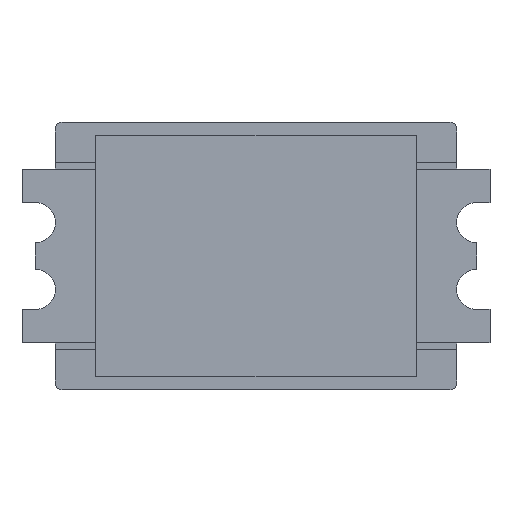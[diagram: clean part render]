
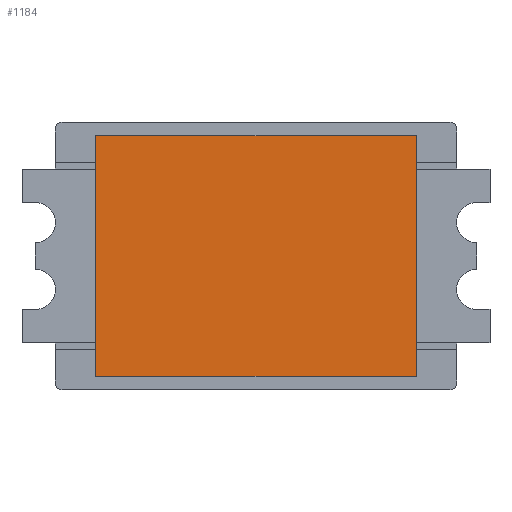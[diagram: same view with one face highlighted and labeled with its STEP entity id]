
A CAD part, front view. The second image highlights one B-rep face of the part: STEP entity #1184.
In plain terms, the highlighted planar face has unit normal (0, -1, 0).
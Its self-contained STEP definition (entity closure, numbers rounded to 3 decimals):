
#21=DIRECTION('',(0.,0.,-1.));
#22=VECTOR('',#21,1.8);
#23=CARTESIAN_POINT('',(1.2,0.,0.9));
#24=LINE('',#23,#22);
#28=DIRECTION('',(-1.,0.,0.));
#29=VECTOR('',#28,2.4);
#30=CARTESIAN_POINT('',(1.2,0.,-0.9));
#31=LINE('',#30,#29);
#35=DIRECTION('',(0.,0.,1.));
#36=VECTOR('',#35,1.8);
#37=CARTESIAN_POINT('',(-1.2,0.,-0.9));
#38=LINE('',#37,#36);
#42=DIRECTION('',(1.,0.,0.));
#43=VECTOR('',#42,2.4);
#44=CARTESIAN_POINT('',(-1.2,0.,0.9));
#45=LINE('',#44,#43);
#1017=CARTESIAN_POINT('',(1.2,0.,0.9));
#1018=CARTESIAN_POINT('',(1.2,0.,-0.9));
#1019=VERTEX_POINT('',#1017);
#1020=VERTEX_POINT('',#1018);
#1021=CARTESIAN_POINT('',(-1.2,0.,-0.9));
#1022=VERTEX_POINT('',#1021);
#1023=CARTESIAN_POINT('',(-1.2,0.,0.9));
#1024=VERTEX_POINT('',#1023);
#1169=CARTESIAN_POINT('',(0.,0.,0.));
#1170=DIRECTION('',(0.,1.,0.));
#1171=DIRECTION('',(1.,0.,0.));
#1172=AXIS2_PLACEMENT_3D('',#1169,#1170,#1171);
#1173=PLANE('',#1172);
#1175=ORIENTED_EDGE('',*,*,#1174,.T.);
#1177=ORIENTED_EDGE('',*,*,#1176,.T.);
#1179=ORIENTED_EDGE('',*,*,#1178,.T.);
#1181=ORIENTED_EDGE('',*,*,#1180,.T.);
#1182=EDGE_LOOP('',(#1175,#1177,#1179,#1181));
#1183=FACE_OUTER_BOUND('',#1182,.F.);
#1174=EDGE_CURVE('',#1019,#1020,#24,.T.);
#1176=EDGE_CURVE('',#1020,#1022,#31,.T.);
#1178=EDGE_CURVE('',#1022,#1024,#38,.T.);
#1180=EDGE_CURVE('',#1024,#1019,#45,.T.);
#1184=ADVANCED_FACE('',(#1183),#1173,.F.);
